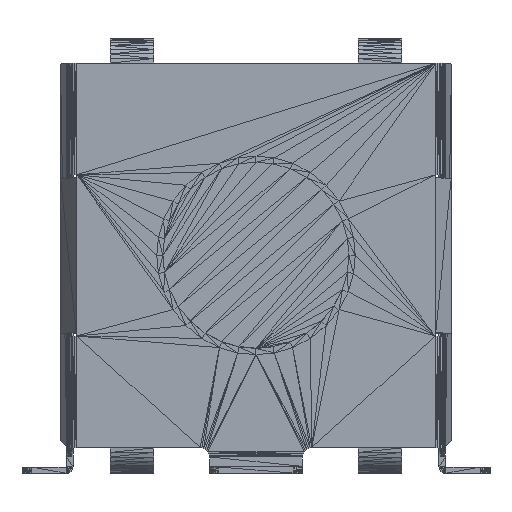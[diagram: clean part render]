
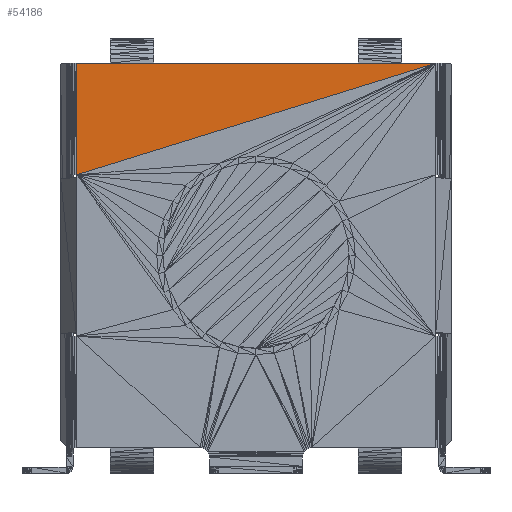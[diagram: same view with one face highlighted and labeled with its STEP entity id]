
A CAD part, top view. The second image highlights one B-rep face of the part: STEP entity #54186.
In plain terms, the highlighted planar face has unit normal (0, 0, 1).
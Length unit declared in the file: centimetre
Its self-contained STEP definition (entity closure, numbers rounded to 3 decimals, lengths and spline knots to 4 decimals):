
#46=DIRECTION('',(0.58,0.,0.));
#47=DIRECTION('',(0.955,0.297,0.));
#2041=DIRECTION('',(-0.006,1.,0.));
#3065=VECTOR('',#46,1.);
#3066=VECTOR('',#47,1.);
#5060=VECTOR('',#2041,1.);
#7638=CARTESIAN_POINT('',(-0.2889,0.13,0.));
#7649=CARTESIAN_POINT('',(-0.29,0.31,0.));
#7664=CARTESIAN_POINT('',(0.2903,0.31,0.));
#9633=VERTEX_POINT('',#7638);
#9644=VERTEX_POINT('',#7649);
#9659=VERTEX_POINT('',#7664);
#10192=LINE('',#7638,#3066);
#10222=LINE('',#7649,#3065);
#10223=LINE('',#7638,#5060);
#16195=EDGE_CURVE('',#9633,#9659,#10192,.T.);
#16225=EDGE_CURVE('',#9644,#9659,#10222,.T.);
#16226=EDGE_CURVE('',#9633,#9644,#10223,.T.);
#22198=ORIENTED_EDGE('',*,*,#16195,.T.);
#28231=ORIENTED_EDGE('',*,*,#16225,.F.);
#28232=ORIENTED_EDGE('',*,*,#16226,.F.);
#34176=EDGE_LOOP('',(#22198,#28231,#28232));
#38178=FACE_OUTER_BOUND('',#34176,.T.);
#42270=DIRECTION('',(0.,0.,1.));
#42271=AXIS2_PLACEMENT_3D('',#7638,#42270,#47);
#50184=PLANE('',#42271);
#54186=ADVANCED_FACE('',(#38178),#50184,.T.);
